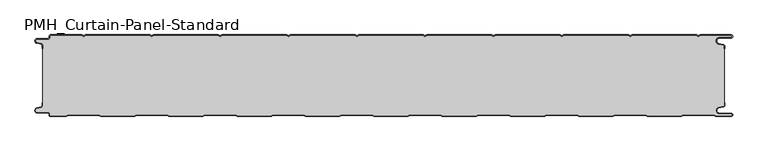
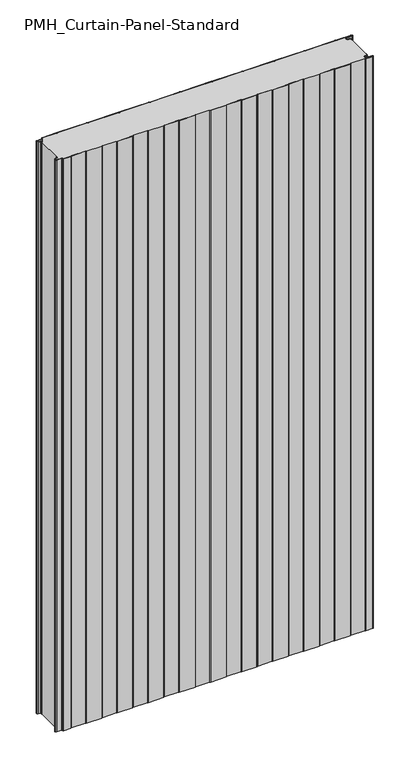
"""IFC4 building model written with IfcOpenShell, lengths in millimetres: plate geometry, PMH_Curtain-Panel-Standard : ACH_PMH_Acoustic-Sectioning-Panel_120M."""

from ifc_helpers import new_model, si_unit, point, frame_2d, origin, origin_with_axes, place, context, project, spatial, polyline, circle_curve, trimmed, segment, composite_curve, outline, extrude, source, transform, mapped, element, save


def pmh_curtain_panel_standard_5e7b8410(model_context):
    return source(origin(), model_context, "Body", "SweptSolid", [
        extrude(outline(composite_curve([segment(trimmed(circle_curve(frame_2d((-502.0, -15.878557)), 2.0), [point((-500.0, -15.878557))], [point((-501.5500978, -13.9298169))], True, "CARTESIAN"), True, "CONTINUOUS"), segment(polyline([(-501.5500978, -13.9298169), (-507.7098239, -12.507732)]), True, "CONTINUOUS"), segment(trimmed(circle_curve(frame_2d((-506.9, -9.0)), 3.6), [point((-507.7098239, -12.507732))], [point((-506.9, -5.4))], False, "CARTESIAN"), True, "CONTINUOUS"), segment(polyline([(-506.9, -5.4), (-491.4, -5.4)]), True, "CONTINUOUS"), segment(trimmed(circle_curve(frame_2d((-491.4, -3.4)), 2.0), [point((-491.4, -5.4))], [point((-489.4, -3.4))], True, "CARTESIAN"), True, "CONTINUOUS"), segment(polyline([(-489.4, -3.4), (-489.4, -2.0)]), True, "CONTINUOUS"), segment(trimmed(circle_curve(frame_2d((-487.4, -2.0)), 2.0), [point((-489.4, -2.0))], [point((-487.4, 0.0))], False, "CARTESIAN"), True, "CONTINUOUS"), segment(polyline([(-487.4, 0.0), (-442.0999995, 0.0), (-439.4, -1.5588455), (-436.7000005, 0.0), (-342.0999995, 0.0), (-339.4, -1.5588455), (-336.7000005, 0.0), (-242.0999995, 0.0), (-239.4, -1.5588455), (-236.7000005, 0.0), (-142.0999995, 0.0), (-139.4, -1.5588455), (-136.7000005, 0.0), (-42.0999995, 0.0), (-39.4, -1.5588455), (-36.7000005, 0.0), (57.9000005, 0.0), (60.6, -1.5588455), (63.2999995, 0.0), (157.9000005, 0.0), (160.6, -1.5588455), (163.2999995, 0.0), (257.9000005, 0.0), (260.6, -1.5588455), (263.2999995, 0.0), (357.9000005, 0.0), (360.6, -1.5588455), (363.2999995, 0.0), (457.9000005, 0.0), (460.6, -1.5588455), (463.2999995, 0.0), (508.1, 0.0)]), True, "CONTINUOUS"), segment(trimmed(circle_curve(frame_2d((508.1, -2.5)), 2.5), [point((508.1, 0.0))], [point((508.1, -5.0))], False, "CARTESIAN"), True, "CONTINUOUS"), segment(polyline([(508.1, -5.0), (491.1, -5.0)]), True, "CONTINUOUS"), segment(trimmed(circle_curve(frame_2d((491.1, -9.0)), 4.0), [point((491.1, -5.0))], [point((490.405407, -12.939231))], True, "CARTESIAN"), True, "CONTINUOUS"), segment(polyline([(490.405407, -12.939231), (496.8514855, -14.0758491)]), True, "CONTINUOUS"), segment(trimmed(circle_curve(frame_2d((496.4, -16.6363492)), 2.6), [point((496.8514855, -14.0758491))], [point((499.0, -16.6363492))], False, "CARTESIAN"), True, "CONTINUOUS"), segment(polyline([(499.0, -16.6363492), (499.0, -20.0), (498.2, -20.0), (498.2, -16.6363492)]), True, "CONTINUOUS"), segment(trimmed(circle_curve(frame_2d((496.4, -16.6363492)), 1.8), [point((498.2, -16.6363492))], [point((496.7125669, -14.8636953))], True, "CARTESIAN"), True, "CONTINUOUS"), segment(polyline([(496.7125669, -14.8636953), (490.2664884, -13.7270772)]), True, "CONTINUOUS"), segment(trimmed(circle_curve(frame_2d((491.1, -9.0)), 4.8), [point((490.2664884, -13.7270772))], [point((491.1, -4.2))], False, "CARTESIAN"), True, "CONTINUOUS"), segment(polyline([(491.1, -4.2), (508.1, -4.2)]), True, "CONTINUOUS"), segment(trimmed(circle_curve(frame_2d((508.1, -2.5)), 1.7), [point((508.1, -4.2))], [point((508.1, -0.8))], True, "CARTESIAN"), True, "CONTINUOUS"), segment(polyline([(508.1, -0.8), (463.5143588, -0.8), (460.6, -2.482606), (457.6856412, -0.8), (363.5143588, -0.8), (360.6, -2.482606), (357.6856412, -0.8), (263.5143588, -0.8), (260.6, -2.482606), (257.6856412, -0.8), (163.5143588, -0.8), (160.6, -2.482606), (157.6856412, -0.8), (63.5143588, -0.8), (60.6, -2.482606), (57.6856412, -0.8), (-36.4856412, -0.8), (-39.4, -2.482606), (-42.3143588, -0.8), (-136.4856412, -0.8), (-139.4, -2.482606), (-142.3143588, -0.8), (-236.4856412, -0.8), (-239.4, -2.482606), (-242.3143588, -0.8), (-336.4856412, -0.8), (-339.4, -2.482606), (-342.3143588, -0.8), (-436.4856412, -0.8), (-439.4, -2.482606), (-442.3143588, -0.8), (-487.4, -0.8)]), True, "CONTINUOUS"), segment(trimmed(circle_curve(frame_2d((-487.4, -2.0)), 1.2), [point((-487.4, -0.8))], [point((-488.6, -2.0))], True, "CARTESIAN"), True, "CONTINUOUS"), segment(polyline([(-488.6, -2.0), (-488.6, -3.4)]), True, "CONTINUOUS"), segment(trimmed(circle_curve(frame_2d((-491.4, -3.4)), 2.8), [point((-488.6, -3.4))], [point((-491.4, -6.2))], False, "CARTESIAN"), True, "CONTINUOUS"), segment(polyline([(-491.4, -6.2), (-506.9, -6.2)]), True, "CONTINUOUS"), segment(trimmed(circle_curve(frame_2d((-506.9, -9.0)), 2.8), [point((-506.9, -6.2))], [point((-507.529863, -11.7282362))], True, "CARTESIAN"), True, "CONTINUOUS"), segment(polyline([(-507.529863, -11.7282362), (-501.370137, -13.150321)]), True, "CONTINUOUS"), segment(trimmed(circle_curve(frame_2d((-502.0, -15.878557)), 2.8), [point((-501.370137, -13.150321))], [point((-499.2, -15.878557))], False, "CARTESIAN"), True, "CONTINUOUS"), segment(polyline([(-499.2, -15.878557), (-499.2, -20.0), (-500.0, -20.0), (-500.0, -15.878557)]), True, "CONTINUOUS")], self_intersect=False)), origin_with_axes(), (0.0, 0.0, 1.0), 1945.7507136),
        extrude(outline(composite_curve([segment(polyline([(-499.2, -104.121443), (-499.2, -15.8785573)]), True, "CONTINUOUS"), segment(trimmed(circle_curve(frame_2d((-502.0, -15.8785573)), 2.8), [point((-499.2, -15.8785573))], [point((-501.370137, -13.1503212))], True, "CARTESIAN"), True, "CONTINUOUS"), segment(polyline([(-501.370137, -13.1503212), (-507.5298631, -11.7282362)]), True, "CONTINUOUS"), segment(trimmed(circle_curve(frame_2d((-506.9, -9.0)), 2.8), [point((-507.5298631, -11.7282362))], [point((-506.9, -6.2))], False, "CARTESIAN"), True, "CONTINUOUS"), segment(polyline([(-506.9, -6.2), (-491.4000001, -6.2)]), True, "CONTINUOUS"), segment(trimmed(circle_curve(frame_2d((-491.4000001, -3.4)), 2.8), [point((-491.4000001, -6.2))], [point((-488.6000001, -3.4))], True, "CARTESIAN"), True, "CONTINUOUS"), segment(polyline([(-488.6000001, -3.4), (-488.6000001, -2.0)]), True, "CONTINUOUS"), segment(trimmed(circle_curve(frame_2d((-487.4000001, -2.0)), 1.2), [point((-488.6000001, -2.0))], [point((-487.4000001, -0.8))], False, "CARTESIAN"), True, "CONTINUOUS"), segment(polyline([(-487.4000001, -0.8), (-442.3143589, -0.8), (-439.4000001, -2.482606), (-436.4856412, -0.8), (-342.3143589, -0.8), (-339.4000001, -2.482606), (-336.4856412, -0.8), (-242.3143589, -0.8), (-239.4000001, -2.482606), (-236.4856412, -0.8), (-142.3143589, -0.8), (-139.4000001, -2.482606), (-136.4856412, -0.8), (-42.3143589, -0.8), (-39.4000001, -2.482606), (-36.4856412, -0.8), (57.6856411, -0.8), (60.5999999, -2.482606), (63.5143588, -0.8), (157.6856411, -0.8), (160.5999999, -2.482606), (163.5143588, -0.8), (257.6856411, -0.8), (260.5999999, -2.482606), (263.5143588, -0.8), (357.6856411, -0.8), (360.5999999, -2.482606), (363.5143588, -0.8), (457.6856411, -0.8), (460.5999999, -2.482606), (463.5143587, -0.8), (508.1, -0.8)]), True, "CONTINUOUS"), segment(trimmed(circle_curve(frame_2d((508.1, -2.5)), 1.7), [point((508.1, -0.8))], [point((508.1, -4.2))], False, "CARTESIAN"), True, "CONTINUOUS"), segment(polyline([(508.1, -4.2), (491.1, -4.2)]), True, "CONTINUOUS"), segment(trimmed(circle_curve(frame_2d((491.1, -9.0)), 4.8), [point((491.1, -4.2))], [point((490.2664883, -13.7270771))], True, "CARTESIAN"), True, "CONTINUOUS"), segment(polyline([(490.2664883, -13.7270771), (496.7125668, -14.8636953)]), True, "CONTINUOUS"), segment(trimmed(circle_curve(frame_2d((496.4, -16.6363492)), 1.8), [point((496.7125668, -14.8636953))], [point((498.2, -16.6363492))], False, "CARTESIAN"), True, "CONTINUOUS"), segment(polyline([(498.2, -16.6363492), (498.2, -103.363652)]), True, "CONTINUOUS"), segment(trimmed(circle_curve(frame_2d((496.4, -103.363652)), 1.8), [point((498.2, -103.363652))], [point((496.7125666, -105.1363059))], False, "CARTESIAN"), True, "CONTINUOUS"), segment(polyline([(496.7125666, -105.1363059), (490.266489, -106.272923)]), True, "CONTINUOUS"), segment(trimmed(circle_curve(frame_2d((491.1, -111.0000002)), 4.7999999), [point((490.266489, -106.272923))], [point((491.1, -115.8000001))], True, "CARTESIAN"), True, "CONTINUOUS"), segment(polyline([(491.1, -115.8000001), (508.1, -115.8000001)]), True, "CONTINUOUS"), segment(trimmed(circle_curve(frame_2d((508.1, -117.5)), 1.7), [point((508.1, -115.8000001))], [point((508.1, -119.2))], False, "CARTESIAN"), True, "CONTINUOUS"), segment(polyline([(508.1, -119.2), (485.8105122, -119.2), (483.2124346, -117.7), (437.9837184, -117.7), (435.3856408, -119.2), (385.8105122, -119.2), (383.2124346, -117.7), (337.9837184, -117.7), (335.3856408, -119.2), (285.8105122, -119.2), (283.2124346, -117.7), (237.9837184, -117.7), (235.3856408, -119.2), (185.8105122, -119.2), (183.2124346, -117.7), (137.9837184, -117.7), (135.3856408, -119.2), (85.8105122, -119.2), (83.2124346, -117.7), (37.9837184, -117.7), (35.3856408, -119.2), (-14.1894878, -119.2), (-16.7875654, -117.7), (-62.0162816, -117.7), (-64.6143592, -119.2), (-114.1894878, -119.2), (-116.7875654, -117.7), (-162.0162816, -117.7), (-164.6143592, -119.2), (-214.1894878, -119.2), (-216.7875654, -117.7), (-262.0162816, -117.7), (-264.6143592, -119.2), (-314.1894878, -119.2), (-316.7875654, -117.7), (-362.0162816, -117.7), (-364.6143592, -119.2), (-414.1894878, -119.2), (-416.7875654, -117.7), (-462.0162816, -117.7), (-464.6143592, -119.2), (-487.4, -119.2)]), True, "CONTINUOUS"), segment(trimmed(circle_curve(frame_2d((-487.4, -118.0)), 1.2), [point((-487.4, -119.2))], [point((-488.6, -118.0))], False, "CARTESIAN"), True, "CONTINUOUS"), segment(polyline([(-488.6, -118.0), (-488.6, -116.5999998)]), True, "CONTINUOUS"), segment(trimmed(circle_curve(frame_2d((-491.4, -116.5999998)), 2.8), [point((-488.6, -116.5999998))], [point((-491.4, -113.7999998))], True, "CARTESIAN"), True, "CONTINUOUS"), segment(polyline([(-491.4, -113.7999998), (-506.9, -113.7999998)]), True, "CONTINUOUS"), segment(trimmed(circle_curve(frame_2d((-506.9, -111.0)), 2.7999998), [point((-506.9, -113.7999998))], [point((-507.529863, -108.271764))], False, "CARTESIAN"), True, "CONTINUOUS"), segment(polyline([(-507.529863, -108.271764), (-501.370137, -106.8496792)]), True, "CONTINUOUS"), segment(trimmed(circle_curve(frame_2d((-502.0, -104.121443)), 2.8), [point((-501.370137, -106.8496792))], [point((-499.2, -104.121443))], True, "CARTESIAN"), True, "CONTINUOUS")], self_intersect=False)), origin_with_axes(), (0.0, 0.0, 1.0), 1945.7507136),
        extrude(outline(composite_curve([segment(trimmed(circle_curve(frame_2d((-487.4, -118.0)), 2.0), [point((-487.4, -120.0))], [point((-489.4, -118.0))], False, "CARTESIAN"), True, "CONTINUOUS"), segment(polyline([(-489.4, -118.0), (-489.4, -116.6)]), True, "CONTINUOUS"), segment(trimmed(circle_curve(frame_2d((-491.4, -116.6)), 2.0), [point((-489.4, -116.6))], [point((-491.4, -114.6))], True, "CARTESIAN"), True, "CONTINUOUS"), segment(polyline([(-491.4, -114.6), (-506.9, -114.6)]), True, "CONTINUOUS"), segment(trimmed(circle_curve(frame_2d((-506.9, -111.0)), 3.6), [point((-506.9, -114.6))], [point((-507.7098239, -107.4922678))], False, "CARTESIAN"), True, "CONTINUOUS"), segment(polyline([(-507.7098239, -107.4922678), (-501.5500979, -106.070183)]), True, "CONTINUOUS"), segment(trimmed(circle_curve(frame_2d((-502.0, -104.121443)), 2.0), [point((-501.5500979, -106.070183))], [point((-500.0, -104.121443))], True, "CARTESIAN"), True, "CONTINUOUS"), segment(polyline([(-500.0, -104.121443), (-500.0, -100.0), (-499.2, -100.0), (-499.2, -104.121443)]), True, "CONTINUOUS"), segment(trimmed(circle_curve(frame_2d((-502.0, -104.121443)), 2.8), [point((-499.2, -104.121443))], [point((-501.370137, -106.8496792))], False, "CARTESIAN"), True, "CONTINUOUS"), segment(polyline([(-501.370137, -106.8496792), (-507.529863, -108.271764)]), True, "CONTINUOUS"), segment(trimmed(circle_curve(frame_2d((-506.9, -111.0)), 2.8), [point((-507.529863, -108.271764))], [point((-506.9, -113.8))], True, "CARTESIAN"), True, "CONTINUOUS"), segment(polyline([(-506.9, -113.8), (-491.4, -113.8)]), True, "CONTINUOUS"), segment(trimmed(circle_curve(frame_2d((-491.4, -116.6)), 2.8), [point((-491.4, -113.8))], [point((-488.6, -116.6))], False, "CARTESIAN"), True, "CONTINUOUS"), segment(polyline([(-488.6, -116.6), (-488.6, -118.0)]), True, "CONTINUOUS"), segment(trimmed(circle_curve(frame_2d((-487.4, -118.0)), 1.2), [point((-488.6, -118.0))], [point((-487.4, -119.2))], True, "CARTESIAN"), True, "CONTINUOUS"), segment(polyline([(-487.4, -119.2), (-464.6143592, -119.2), (-462.0162816, -117.7), (-416.7875654, -117.7), (-414.1894878, -119.2), (-364.6143592, -119.2), (-362.0162816, -117.7), (-316.7875654, -117.7), (-314.1894878, -119.2), (-264.6143592, -119.2), (-262.0162816, -117.7), (-216.7875654, -117.7), (-214.1894878, -119.2), (-164.6143592, -119.2), (-162.0162816, -117.7), (-116.7875654, -117.7), (-114.1894878, -119.2), (-64.6143592, -119.2), (-62.0162816, -117.7), (-16.7875654, -117.7), (-14.1894878, -119.2), (35.3856408, -119.2), (37.9837184, -117.7), (83.2124346, -117.7), (85.8105122, -119.2), (135.3856408, -119.2), (137.9837184, -117.7), (183.2124346, -117.7), (185.8105122, -119.2), (235.3856408, -119.2), (237.9837184, -117.7), (283.2124346, -117.7), (285.8105122, -119.2), (335.3856408, -119.2), (337.9837184, -117.7), (383.2124346, -117.7), (385.8105122, -119.2), (435.3856408, -119.2), (437.9837184, -117.7), (483.2124346, -117.7), (485.8105122, -119.2), (508.1, -119.2)]), True, "CONTINUOUS"), segment(trimmed(circle_curve(frame_2d((508.1, -117.5)), 1.7), [point((508.1, -119.2))], [point((508.1, -115.8))], True, "CARTESIAN"), True, "CONTINUOUS"), segment(polyline([(508.1, -115.8), (491.1, -115.8)]), True, "CONTINUOUS"), segment(trimmed(circle_curve(frame_2d((491.1, -111.0)), 4.8), [point((491.1, -115.8))], [point((490.266489, -106.2729227))], False, "CARTESIAN"), True, "CONTINUOUS"), segment(polyline([(490.266489, -106.2729227), (496.7125666, -105.1363058)]), True, "CONTINUOUS"), segment(trimmed(circle_curve(frame_2d((496.4, -103.363652)), 1.8), [point((496.7125666, -105.1363058))], [point((498.2, -103.363652))], True, "CARTESIAN"), True, "CONTINUOUS"), segment(polyline([(498.2, -103.363652), (498.2, -100.0), (499.0, -100.0), (499.0, -103.363652)]), True, "CONTINUOUS"), segment(trimmed(circle_curve(frame_2d((496.4, -103.363652)), 2.6), [point((499.0, -103.363652))], [point((496.8514851, -105.9241522))], False, "CARTESIAN"), True, "CONTINUOUS"), segment(polyline([(496.8514851, -105.9241522), (490.4054075, -107.0607691)]), True, "CONTINUOUS"), segment(trimmed(circle_curve(frame_2d((491.1, -111.0)), 4.0), [point((490.4054075, -107.0607691))], [point((491.1, -115.0))], True, "CARTESIAN"), True, "CONTINUOUS"), segment(polyline([(491.1, -115.0), (508.1, -115.0)]), True, "CONTINUOUS"), segment(trimmed(circle_curve(frame_2d((508.1, -117.5)), 2.5), [point((508.1, -115.0))], [point((508.1, -120.0))], False, "CARTESIAN"), True, "CONTINUOUS"), segment(polyline([(508.1, -120.0), (485.5961529, -120.0), (482.9980753, -118.5), (438.1980777, -118.5), (435.6000001, -120.0), (385.5961529, -120.0), (382.9980753, -118.5), (338.1980777, -118.5), (335.6000001, -120.0), (285.5961529, -120.0), (282.9980753, -118.5), (238.1980777, -118.5), (235.6000001, -120.0), (185.5961529, -120.0), (182.9980753, -118.5), (138.1980777, -118.5), (135.6000001, -120.0), (85.5961529, -120.0), (82.9980753, -118.5), (38.1980777, -118.5), (35.6000001, -120.0), (-14.4038471, -120.0), (-17.0019247, -118.5), (-61.8019223, -118.5), (-64.3999999, -120.0), (-114.4038471, -120.0), (-117.0019247, -118.5), (-161.8019223, -118.5), (-164.3999999, -120.0), (-214.4038471, -120.0), (-217.0019247, -118.5), (-261.8019223, -118.5), (-264.3999999, -120.0), (-314.4038471, -120.0), (-317.0019247, -118.5), (-361.8019223, -118.5), (-364.3999999, -120.0), (-414.4038471, -120.0), (-417.0019247, -118.5), (-461.8019223, -118.5), (-464.3999999, -120.0), (-487.4, -120.0)]), True, "CONTINUOUS")], self_intersect=False)), origin_with_axes(), (0.0, 0.0, 1.0), 1945.7507136),
    ])


if __name__ == "__main__":
    model = new_model("IFC4")
    model_context = context("Model", 3, world=origin())
    ifc_project = project(units=[si_unit("LENGTHUNIT", "METRE", prefix="MILLI")], contexts=[model_context])
    site = spatial("IfcSite", under=ifc_project)
    building = spatial("IfcBuilding", under=site)
    placement = place(None, origin())
    pmh_curtain_panel_standard_shape = pmh_curtain_panel_standard_5e7b8410(model_context)
    element("IfcPlate", 1, ObjectType="PMH_Curtain-Panel-Standard : ACH_PMH_Acoustic-Sectioning-Panel_120M", at=placement, inside=building, context=model_context, shape_type="MappedRepresentation", body=[
        mapped(pmh_curtain_panel_standard_shape, transform((0.0, 0.0, 0.0), x_axis=(1.0, 0.0, 0.0), y_axis=(0.0, 1.0, 0.0), z_axis=(0.0, 0.0, 1.0))),
    ])
    save(model, "model.ifc")
